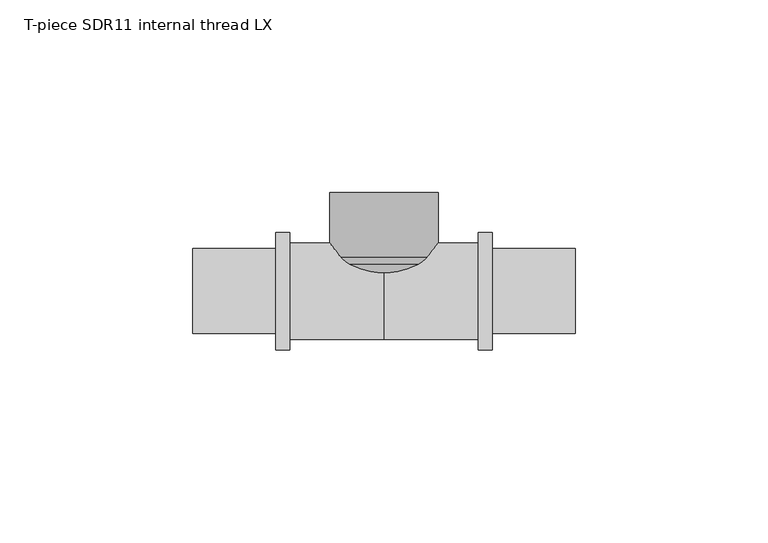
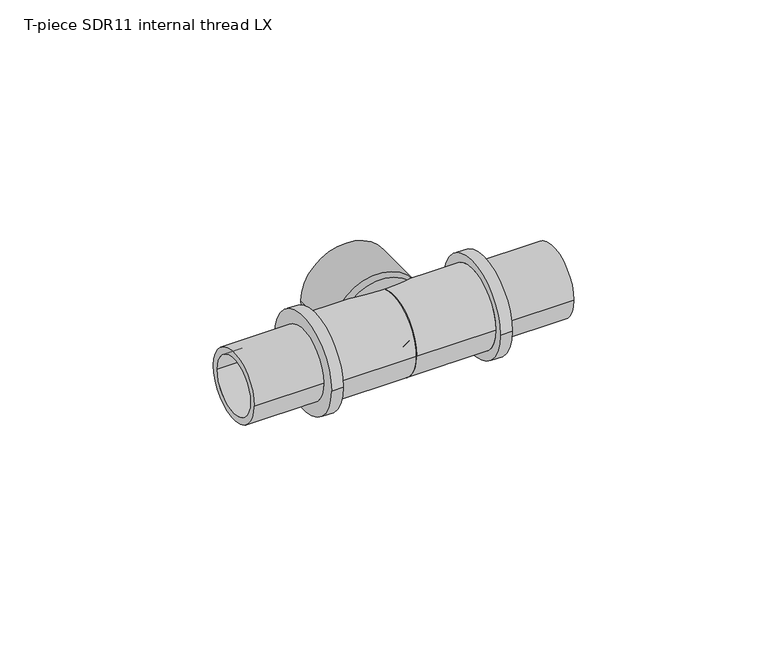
"""IFC4 building model written with IfcOpenShell, lengths in millimetres: pipe fitting geometry, T-piece SDR11 internal thread LX : T-piece LX SDR11 internal LX."""

from ifc_helpers import new_model, si_unit, point, frame, origin, place, context, project, spatial, polyline, circle_curve, ellipse_curve, trimmed, source, transform, mapped, element, save
from ifc_brep_helpers import plane_surface, cylinder_surface, revolved_surface, advanced_brep


def t_piece_sdr11_internal_thread_lx_d718ae2c(model_context):
    return source(origin(), model_context, "Body", "AdvancedBrep", [
        advanced_brep(
        [(9.85, 9.35, 0.0), (-9.85, 9.35, 0.0), (-9.85, 25.5, 0.0), (9.85, 25.5, 0.0), (0.5, 0.0, 0.0), (-0.5, 0.0, 0.0), (13.2683856, 6.8993993, 0.0), (-13.2683856, 6.8993993, 0.0), (-6.3689863, 0.0, 0.0), (6.3689863, 0.0, 0.0), (14.0, 8.6656727, 0.0), (-14.0, 8.6656727, 0.0), (14.0, 25.5, 0.0), (-14.0, 25.5, 0.0)],
        [
            (0, 1, circle_curve(frame((0.0, 9.35, 0.0), z_axis=(0.0, -1.0, 0.0), x_axis=(-1.0, 0.0, 0.0)), 9.85)),
            (1, 2),
            (2, 3, circle_curve(frame((0.0, 25.5, 0.0), z_axis=(0.0, 1.0, 0.0), x_axis=(-1.0, 0.0, 0.0)), 9.85)),
            (3, 0),
            (4, 5, circle_curve(frame((0.0, 0.0, 0.0), z_axis=(0.0, -1.0, 0.0), x_axis=(-1.0, 0.0, 0.0)), 0.5)),
            (5, 1),
            (0, 4),
            (6, 7, circle_curve(frame((0.0, 6.8993993, 0.0), z_axis=(0.0, -1.0, 0.0), x_axis=(-1.0, 0.0, 0.0)), 13.2683856)),
            (7, 8),
            (8, 9, circle_curve(frame((0.0, 0.0, 0.0), z_axis=(0.0, 1.0, 0.0), x_axis=(-1.0, 0.0, 0.0)), 6.3689863)),
            (9, 6),
            (10, 11, circle_curve(frame((0.0, 8.6656727, 0.0), z_axis=(0.0, -1.0, 0.0), x_axis=(-1.0, 0.0, 0.0)), 14.0)),
            (11, 7, circle_curve(frame((-9.85, 9.35, 0.0), z_axis=(0.0, 0.0, 1.0), x_axis=(0.0, 1.0, 0.0)), 4.2060437)),
            (6, 10, circle_curve(frame((9.85, 9.35, 0.0), z_axis=(0.0, 0.0, 1.0), x_axis=(0.0, 1.0, 0.0)), 4.2060437)),
            (12, 13, circle_curve(frame((0.0, 25.5, 0.0), z_axis=(0.0, -1.0, 0.0), x_axis=(-1.0, 0.0, 0.0)), 14.0)),
            (13, 11),
            (10, 12),
            (12, 13, circle_curve(frame((0.0, 25.5, 0.0), z_axis=(0.0, 1.0, 0.0), x_axis=(1.0, 0.0, 0.0)), 14.0)),
            (2, 3, circle_curve(frame((0.0, 25.5, 0.0), z_axis=(0.0, -1.0, 0.0), x_axis=(1.0, 0.0, 0.0)), 9.85)),
            (1, 0, circle_curve(frame((0.0, 9.35, 0.0), z_axis=(0.0, -1.0, 0.0), x_axis=(1.0, 0.0, 0.0)), 9.85)),
            (5, 4, circle_curve(frame((0.0, 0.0, 0.0), z_axis=(0.0, -1.0, 0.0), x_axis=(1.0, 0.0, 0.0)), 0.5)),
            (8, 9, circle_curve(frame((0.0, 0.0, 0.0), z_axis=(0.0, -1.0, 0.0), x_axis=(1.0, 0.0, 0.0)), 6.3689863)),
            (7, 6, circle_curve(frame((0.0, 6.8993993, 0.0), z_axis=(0.0, -1.0, 0.0), x_axis=(1.0, 0.0, 0.0)), 13.2683856)),
            (11, 10, circle_curve(frame((0.0, 8.6656727, 0.0), z_axis=(0.0, -1.0, 0.0), x_axis=(1.0, 0.0, 0.0)), 14.0)),
        ],
        [
            revolved_surface(polyline([(-9.85, 25.5, 0.0), (-9.85, 9.35, 0.0)]), (0.0, 0.0, 0.0), (0.0, 1.0, 0.0)),
            revolved_surface(polyline([(-9.85, 9.35, 0.0), (-0.5, 0.0, 0.0)]), (0.0, 0.0, 0.0), (0.0, 1.0, 0.0)),
            revolved_surface(polyline([(-6.3689863, 0.0, 0.0), (-13.2683856, 6.8993993, 0.0)]), (0.0, 0.0, 0.0), (0.0, 1.0, 0.0)),
            revolved_surface(trimmed(ellipse_curve(frame((-9.85, 9.35, 0.0), z_axis=(0.0, 0.0, -1.0), x_axis=(0.0, 1.0, 0.0)), 4.2060437, 4.2060437), [point((-13.2683856, 6.8993993, 0.0))], [point((-14.0, 8.6656727, 0.0))], True, "CARTESIAN"), (0.0, 0.0, 0.0), (0.0, 1.0, 0.0)),
            cylinder_surface(frame((0.0, 0.0, 0.0), z_axis=(0.0, 1.0, 0.0), x_axis=(-1.0, 0.0, 0.0)), 14.0),
            plane_surface(frame((0.0, 25.5, 0.0), z_axis=(0.0, 1.0, 0.0), x_axis=(1.0, 0.0, 0.0))),
            revolved_surface(polyline([(9.85, 25.5, 0.0), (9.85, 9.35, 0.0)]), (0.0, 0.0, 0.0), (0.0, 1.0, 0.0)),
            revolved_surface(polyline([(9.85, 9.35, 0.0), (0.5, 0.0, 0.0)]), (0.0, 0.0, 0.0), (0.0, 1.0, 0.0)),
            plane_surface(frame((0.0, 0.0, 0.0), z_axis=(0.0, -1.0, 0.0), x_axis=(1.0, 0.0, 0.0))),
            revolved_surface(polyline([(6.3689863, 0.0, 0.0), (13.2683856, 6.8993993, 0.0)]), (0.0, 0.0, 0.0), (0.0, 1.0, 0.0)),
            revolved_surface(trimmed(ellipse_curve(frame((9.85, 9.35, 0.0), z_axis=(0.0, 0.0, 1.0), x_axis=(0.0, 1.0, 0.0)), 4.2060437, 4.2060437), [point((13.2683856, 6.8993993, 0.0))], [point((14.0, 8.6656727, 0.0))], True, "CARTESIAN"), (0.0, 0.0, 0.0), (0.0, 1.0, 0.0)),
            cylinder_surface(frame((0.0, 0.0, 0.0), z_axis=(0.0, 1.0, 0.0), x_axis=(1.0, 0.0, 0.0)), 14.0),
        ],
        [
            (0, [[1, 2, 3, 4]]),
            (1, [[5, 6, -1, 7]]),
            (2, [[8, 9, 10, 11]]),
            (3, [[12, 13, -8, 14]]),
            (4, [[15, 16, -12, 17]]),
            (5, [[18, -15], [19, -3]]),
            (6, [[20, -4, -19, -2]]),
            (7, [[21, -7, -20, -6]]),
            (8, [[22, -10], [-21, -5]]),
            (9, [[23, -11, -22, -9]]),
            (10, [[24, -14, -23, -13]]),
            (11, [[-18, -17, -24, -16]]),
        ],
    ),
        advanced_brep(
        [(28.0, 15.25, 0.0), (28.0, -15.25, 0.0), (24.4, -15.25, 0.0), (24.4, 15.25, 0.0), (49.5, 11.0, 0.0), (49.5, -11.0, 0.0), (28.0, -11.0, 0.0), (28.0, 11.0, 0.0), (0.0, 8.9, 0.0), (0.0, -8.9, 0.0), (49.5, -8.9, 0.0), (49.5, 8.9, 0.0), (24.4, 12.5, 0.0), (24.4, -12.5, 0.0), (0.0, -12.5, 0.0), (0.0, 12.5, 0.0)],
        [
            (0, 1, circle_curve(frame((28.0, 0.0, 0.0), z_axis=(-1.0, 0.0, 0.0), x_axis=(0.0, -1.0, 0.0)), 15.25)),
            (1, 2),
            (2, 3, circle_curve(frame((24.4, 0.0, 0.0), z_axis=(1.0, 0.0, 0.0), x_axis=(0.0, -1.0, 0.0)), 15.25)),
            (3, 0),
            (4, 5, circle_curve(frame((49.5, 0.0, 0.0), z_axis=(-1.0, 0.0, 0.0), x_axis=(0.0, -1.0, 0.0)), 11.0)),
            (5, 6),
            (6, 7, circle_curve(frame((28.0, 0.0, 0.0), z_axis=(1.0, 0.0, 0.0), x_axis=(0.0, -1.0, 0.0)), 11.0)),
            (7, 4),
            (8, 9, circle_curve(frame((0.0, 0.0, 0.0), z_axis=(-1.0, 0.0, 0.0), x_axis=(0.0, -1.0, 0.0)), 8.9)),
            (9, 10),
            (10, 11, circle_curve(frame((49.5, 0.0, 0.0), z_axis=(1.0, 0.0, 0.0), x_axis=(0.0, -1.0, 0.0)), 8.9)),
            (11, 8),
            (12, 13, circle_curve(frame((24.4, 0.0, 0.0), z_axis=(-1.0, 0.0, 0.0), x_axis=(0.0, -1.0, 0.0)), 12.5)),
            (13, 14),
            (14, 15, circle_curve(frame((0.0, 0.0, 0.0), z_axis=(1.0, 0.0, 0.0), x_axis=(0.0, -1.0, 0.0)), 12.5)),
            (15, 12),
            (1, 0, circle_curve(frame((28.0, 0.0, 0.0), z_axis=(-1.0, 0.0, 0.0), x_axis=(0.0, 1.0, 0.0)), 15.25)),
            (3, 2, circle_curve(frame((24.4, 0.0, 0.0), z_axis=(1.0, 0.0, 0.0), x_axis=(0.0, 1.0, 0.0)), 15.25)),
            (6, 7, circle_curve(frame((28.0, 0.0, 0.0), z_axis=(-1.0, 0.0, 0.0), x_axis=(0.0, 1.0, 0.0)), 11.0)),
            (5, 4, circle_curve(frame((49.5, 0.0, 0.0), z_axis=(-1.0, 0.0, 0.0), x_axis=(0.0, 1.0, 0.0)), 11.0)),
            (10, 11, circle_curve(frame((49.5, 0.0, 0.0), z_axis=(-1.0, 0.0, 0.0), x_axis=(0.0, 1.0, 0.0)), 8.9)),
            (9, 8, circle_curve(frame((0.0, 0.0, 0.0), z_axis=(-1.0, 0.0, 0.0), x_axis=(0.0, 1.0, 0.0)), 8.9)),
            (14, 15, circle_curve(frame((0.0, 0.0, 0.0), z_axis=(-1.0, 0.0, 0.0), x_axis=(0.0, 1.0, 0.0)), 12.5)),
            (13, 12, circle_curve(frame((24.4, 0.0, 0.0), z_axis=(-1.0, 0.0, 0.0), x_axis=(0.0, 1.0, 0.0)), 12.5)),
        ],
        [
            cylinder_surface(frame((0.0, 0.0, 0.0), z_axis=(1.0, 0.0, 0.0), x_axis=(0.0, -1.0, 0.0)), 15.25),
            cylinder_surface(frame((0.0, 0.0, 0.0), z_axis=(1.0, 0.0, 0.0), x_axis=(0.0, -1.0, 0.0)), 11.0),
            revolved_surface(polyline([(49.5, -8.9, 0.0), (0.0, -8.9, 0.0)]), (0.0, 0.0, 0.0), (1.0, 0.0, 0.0)),
            cylinder_surface(frame((0.0, 0.0, 0.0), z_axis=(1.0, 0.0, 0.0), x_axis=(0.0, -1.0, 0.0)), 12.5),
            cylinder_surface(frame((0.0, 0.0, 0.0), z_axis=(1.0, 0.0, 0.0), x_axis=(0.0, 1.0, 0.0)), 15.25),
            plane_surface(frame((28.0, 0.0, 0.0), z_axis=(1.0, 0.0, 0.0), x_axis=(0.0, 1.0, 0.0))),
            cylinder_surface(frame((0.0, 0.0, 0.0), z_axis=(1.0, 0.0, 0.0), x_axis=(0.0, 1.0, 0.0)), 11.0),
            plane_surface(frame((49.5, 0.0, 0.0), z_axis=(1.0, 0.0, 0.0), x_axis=(0.0, 1.0, 0.0))),
            revolved_surface(polyline([(49.5, 8.9, 0.0), (0.0, 8.9, 0.0)]), (0.0, 0.0, 0.0), (1.0, 0.0, 0.0)),
            plane_surface(frame((0.0, 0.0, 0.0), z_axis=(-1.0, 0.0, 0.0), x_axis=(0.0, 1.0, 0.0))),
            cylinder_surface(frame((0.0, 0.0, 0.0), z_axis=(1.0, 0.0, 0.0), x_axis=(0.0, 1.0, 0.0)), 12.5),
            plane_surface(frame((24.4, 0.0, 0.0), z_axis=(-1.0, 0.0, 0.0), x_axis=(0.0, 1.0, 0.0))),
        ],
        [
            (0, [[1, 2, 3, 4]]),
            (1, [[5, 6, 7, 8]]),
            (2, [[9, 10, 11, 12]]),
            (3, [[13, 14, 15, 16]]),
            (4, [[17, -4, 18, -2]]),
            (5, [[-17, -1], [19, -7]]),
            (6, [[20, -8, -19, -6]]),
            (7, [[-20, -5], [21, -11]]),
            (8, [[22, -12, -21, -10]]),
            (9, [[23, -15], [-22, -9]]),
            (10, [[24, -16, -23, -14]]),
            (11, [[-18, -3], [-24, -13]]),
        ],
    ),
        advanced_brep(
        [(0.0, 12.5, 0.0), (0.0, -12.5, 0.0), (-24.4, -12.5, 0.0), (-24.4, 12.5, 0.0), (-49.5, 8.9, 0.0), (-49.5, -8.9, 0.0), (0.0, -8.9, 0.0), (0.0, 8.9, 0.0), (-28.0, 11.0, 0.0), (-28.0, -11.0, 0.0), (-49.5, -11.0, 0.0), (-49.5, 11.0, 0.0), (-24.4, 15.25, 0.0), (-24.4, -15.25, 0.0), (-28.0, -15.25, 0.0), (-28.0, 15.25, 0.0)],
        [
            (0, 1, circle_curve(frame((0.0, 0.0, 0.0), z_axis=(-1.0, 0.0, 0.0), x_axis=(0.0, -1.0, 0.0)), 12.5)),
            (1, 2),
            (2, 3, circle_curve(frame((-24.4, 0.0, 0.0), z_axis=(1.0, 0.0, 0.0), x_axis=(0.0, -1.0, 0.0)), 12.5)),
            (3, 0),
            (4, 5, circle_curve(frame((-49.5, 0.0, 0.0), z_axis=(-1.0, 0.0, 0.0), x_axis=(0.0, -1.0, 0.0)), 8.9)),
            (5, 6),
            (6, 7, circle_curve(frame((0.0, 0.0, 0.0), z_axis=(1.0, 0.0, 0.0), x_axis=(0.0, -1.0, 0.0)), 8.9)),
            (7, 4),
            (8, 9, circle_curve(frame((-28.0, 0.0, 0.0), z_axis=(-1.0, 0.0, 0.0), x_axis=(0.0, -1.0, 0.0)), 11.0)),
            (9, 10),
            (10, 11, circle_curve(frame((-49.5, 0.0, 0.0), z_axis=(1.0, 0.0, 0.0), x_axis=(0.0, -1.0, 0.0)), 11.0)),
            (11, 8),
            (12, 13, circle_curve(frame((-24.4, 0.0, 0.0), z_axis=(-1.0, 0.0, 0.0), x_axis=(0.0, -1.0, 0.0)), 15.25)),
            (13, 14),
            (14, 15, circle_curve(frame((-28.0, 0.0, 0.0), z_axis=(1.0, 0.0, 0.0), x_axis=(0.0, -1.0, 0.0)), 15.25)),
            (15, 12),
            (12, 13, circle_curve(frame((-24.4, 0.0, 0.0), z_axis=(1.0, 0.0, 0.0), x_axis=(0.0, 1.0, 0.0)), 15.25)),
            (2, 3, circle_curve(frame((-24.4, 0.0, 0.0), z_axis=(-1.0, 0.0, 0.0), x_axis=(0.0, 1.0, 0.0)), 12.5)),
            (1, 0, circle_curve(frame((0.0, 0.0, 0.0), z_axis=(-1.0, 0.0, 0.0), x_axis=(0.0, 1.0, 0.0)), 12.5)),
            (6, 7, circle_curve(frame((0.0, 0.0, 0.0), z_axis=(-1.0, 0.0, 0.0), x_axis=(0.0, 1.0, 0.0)), 8.9)),
            (5, 4, circle_curve(frame((-49.5, 0.0, 0.0), z_axis=(-1.0, 0.0, 0.0), x_axis=(0.0, 1.0, 0.0)), 8.9)),
            (10, 11, circle_curve(frame((-49.5, 0.0, 0.0), z_axis=(-1.0, 0.0, 0.0), x_axis=(0.0, 1.0, 0.0)), 11.0)),
            (9, 8, circle_curve(frame((-28.0, 0.0, 0.0), z_axis=(-1.0, 0.0, 0.0), x_axis=(0.0, 1.0, 0.0)), 11.0)),
            (14, 15, circle_curve(frame((-28.0, 0.0, 0.0), z_axis=(-1.0, 0.0, 0.0), x_axis=(0.0, 1.0, 0.0)), 15.25)),
        ],
        [
            cylinder_surface(frame((0.0, 0.0, 0.0), z_axis=(1.0, 0.0, 0.0), x_axis=(0.0, -1.0, 0.0)), 12.5),
            revolved_surface(polyline([(0.0, -8.9, 0.0), (-49.5, -8.9, 0.0)]), (0.0, 0.0, 0.0), (1.0, 0.0, 0.0)),
            cylinder_surface(frame((0.0, 0.0, 0.0), z_axis=(1.0, 0.0, 0.0), x_axis=(0.0, -1.0, 0.0)), 11.0),
            cylinder_surface(frame((0.0, 0.0, 0.0), z_axis=(1.0, 0.0, 0.0), x_axis=(0.0, -1.0, 0.0)), 15.25),
            plane_surface(frame((-24.4, 0.0, 0.0), z_axis=(1.0, 0.0, 0.0), x_axis=(0.0, 1.0, 0.0))),
            cylinder_surface(frame((0.0, 0.0, 0.0), z_axis=(1.0, 0.0, 0.0), x_axis=(0.0, 1.0, 0.0)), 12.5),
            plane_surface(frame((0.0, 0.0, 0.0), z_axis=(1.0, 0.0, 0.0), x_axis=(0.0, 1.0, 0.0))),
            revolved_surface(polyline([(0.0, 8.9, 0.0), (-49.5, 8.9, 0.0)]), (0.0, 0.0, 0.0), (1.0, 0.0, 0.0)),
            plane_surface(frame((-49.5, 0.0, 0.0), z_axis=(-1.0, 0.0, 0.0), x_axis=(0.0, 1.0, 0.0))),
            cylinder_surface(frame((0.0, 0.0, 0.0), z_axis=(1.0, 0.0, 0.0), x_axis=(0.0, 1.0, 0.0)), 11.0),
            plane_surface(frame((-28.0, 0.0, 0.0), z_axis=(-1.0, 0.0, 0.0), x_axis=(0.0, 1.0, 0.0))),
            cylinder_surface(frame((0.0, 0.0, 0.0), z_axis=(1.0, 0.0, 0.0), x_axis=(0.0, 1.0, 0.0)), 15.25),
        ],
        [
            (0, [[1, 2, 3, 4]]),
            (1, [[5, 6, 7, 8]]),
            (2, [[9, 10, 11, 12]]),
            (3, [[13, 14, 15, 16]]),
            (4, [[17, -13], [18, -3]]),
            (5, [[19, -4, -18, -2]]),
            (6, [[-19, -1], [20, -7]]),
            (7, [[21, -8, -20, -6]]),
            (8, [[22, -11], [-21, -5]]),
            (9, [[23, -12, -22, -10]]),
            (10, [[24, -15], [-23, -9]]),
            (11, [[-17, -16, -24, -14]]),
        ],
    ),
    ])


if __name__ == "__main__":
    model = new_model("IFC4")
    model_context = context("Model", 3, world=origin())
    ifc_project = project(units=[si_unit("LENGTHUNIT", "METRE", prefix="MILLI")], contexts=[model_context])
    site = spatial("IfcSite", under=ifc_project)
    building = spatial("IfcBuilding", under=site)
    placement = place(None, origin())
    t_piece_sdr11_internal_thread_lx_shape = t_piece_sdr11_internal_thread_lx_d718ae2c(model_context)
    element("IfcPipeFitting", 1, ObjectType="T-piece SDR11 internal thread LX : T-piece LX SDR11 internal LX", at=placement, inside=building, context=model_context, shape_type="MappedRepresentation", body=[
        mapped(t_piece_sdr11_internal_thread_lx_shape, transform((0.0, 0.0, 0.0), x_axis=(1.0, 0.0, 0.0), y_axis=(0.0, 1.0, 0.0), z_axis=(0.0, 0.0, 1.0))),
    ])
    save(model, "model.ifc")
